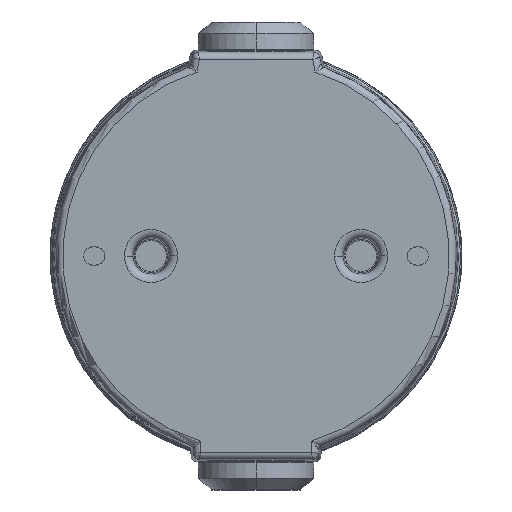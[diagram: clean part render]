
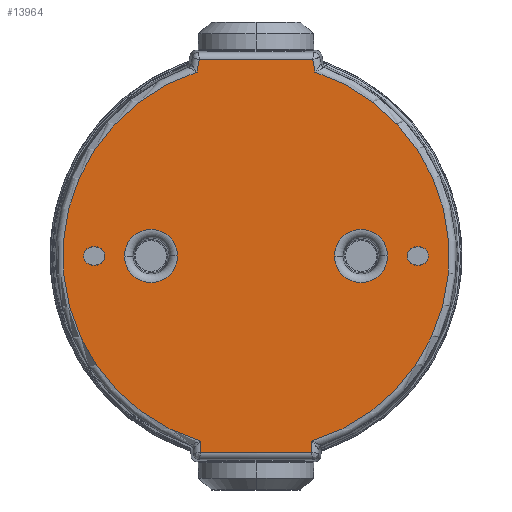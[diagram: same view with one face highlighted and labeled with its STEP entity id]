
A CAD part, front view. The second image highlights one B-rep face of the part: STEP entity #13964.
In plain terms, the highlighted planar face has unit normal (0, -1, 0).
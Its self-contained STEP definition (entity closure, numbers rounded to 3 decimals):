
#3261=CARTESIAN_POINT('',(-38.85,0.,0.));
#3262=DIRECTION('',(0.,1.,0.));
#3263=DIRECTION('',(0.,0.,-1.));
#3264=AXIS2_PLACEMENT_3D('',#3261,#3262,#3263);
#3269=DIRECTION('',(-1.,0.,0.));
#3270=VECTOR('',#3269,0.7);
#3271=CARTESIAN_POINT('',(-38.15,0.,-2.185));
#3272=LINE('',#3271,#3270);
#3276=CARTESIAN_POINT('',(-38.15,0.,0.));
#3277=DIRECTION('',(0.,1.,0.));
#3278=DIRECTION('',(0.,0.,1.));
#3279=AXIS2_PLACEMENT_3D('',#3276,#3277,#3278);
#3284=DIRECTION('',(1.,0.,0.));
#3285=VECTOR('',#3284,0.7);
#3286=CARTESIAN_POINT('',(-38.85,0.,2.185));
#3287=LINE('',#3286,#3285);
#3291=DIRECTION('',(-1.,0.,0.));
#3292=VECTOR('',#3291,0.7);
#3293=CARTESIAN_POINT('',(38.85,0.,-2.185));
#3294=LINE('',#3293,#3292);
#3298=CARTESIAN_POINT('',(38.85,0.,0.));
#3299=DIRECTION('',(0.,1.,0.));
#3300=DIRECTION('',(0.,0.,1.));
#3301=AXIS2_PLACEMENT_3D('',#3298,#3299,#3300);
#3306=DIRECTION('',(1.,0.,0.));
#3307=VECTOR('',#3306,0.7);
#3308=CARTESIAN_POINT('',(38.15,0.,2.185));
#3309=LINE('',#3308,#3307);
#3313=CARTESIAN_POINT('',(38.15,0.,0.));
#3314=DIRECTION('',(0.,1.,0.));
#3315=DIRECTION('',(0.,0.,-1.));
#3316=AXIS2_PLACEMENT_3D('',#3313,#3314,#3315);
#3321=CARTESIAN_POINT('',(0.,0.,0.));
#3322=DIRECTION('',(0.,1.,0.));
#3323=DIRECTION('',(0.305,0.,0.952));
#3324=AXIS2_PLACEMENT_3D('',#3321,#3322,#3323);
#3329=DIRECTION('',(0.,0.,-1.));
#3330=VECTOR('',#3329,2.746);
#3331=CARTESIAN_POINT('',(13.236,0.,
-44.04));
#3332=LINE('',#3331,#3330);
#3336=DIRECTION('',(-1.,0.,0.));
#3337=VECTOR('',#3336,26.472);
#3338=CARTESIAN_POINT('',(13.236,0.,
-46.786));
#3339=LINE('',#3338,#3337);
#3343=DIRECTION('',(0.,0.,-1.));
#3344=VECTOR('',#3343,2.746);
#3345=CARTESIAN_POINT('',(-13.236,0.,
-44.04));
#3346=LINE('',#3345,#3344);
#3350=CARTESIAN_POINT('',(0.,0.,0.));
#3351=DIRECTION('',(0.,1.,0.));
#3352=DIRECTION('',(-0.288,0.,-0.958));
#3353=AXIS2_PLACEMENT_3D('',#3350,#3351,#3352);
#3358=DIRECTION('',(-0.173,0.,-0.985));
#3359=VECTOR('',#3358,3.04);
#3360=CARTESIAN_POINT('',(-13.509,0.,
46.786));
#3361=LINE('',#3360,#3359);
#3365=DIRECTION('',(1.,0.,0.));
#3366=VECTOR('',#3365,27.018);
#3367=CARTESIAN_POINT('',(-13.509,0.,
46.786));
#3368=LINE('',#3367,#3366);
#3372=DIRECTION('',(0.173,0.,-0.985));
#3373=VECTOR('',#3372,3.04);
#3374=CARTESIAN_POINT('',(13.509,0.,
46.786));
#3375=LINE('',#3374,#3373);
#3379=CARTESIAN_POINT('',(-25.,0.,0.));
#3380=DIRECTION('',(0.,1.,0.));
#3381=DIRECTION('',(-1.,0.,0.));
#3382=AXIS2_PLACEMENT_3D('',#3379,#3380,#3381);
#3387=CARTESIAN_POINT('',(-25.,0.,0.));
#3388=DIRECTION('',(0.,1.,0.));
#3389=DIRECTION('',(1.,0.,0.));
#3390=AXIS2_PLACEMENT_3D('',#3387,#3388,#3389);
#3395=CARTESIAN_POINT('',(25.,0.,0.));
#3396=DIRECTION('',(0.,1.,0.));
#3397=DIRECTION('',(1.,0.,0.));
#3398=AXIS2_PLACEMENT_3D('',#3395,#3396,#3397);
#3403=CARTESIAN_POINT('',(25.,0.,0.));
#3404=DIRECTION('',(0.,1.,0.));
#3405=DIRECTION('',(-1.,0.,0.));
#3406=AXIS2_PLACEMENT_3D('',#3403,#3404,#3405);
#9635=CARTESIAN_POINT('',(-38.85,0.,-2.185));
#9636=CARTESIAN_POINT('',(-38.85,0.,2.185));
#9637=VERTEX_POINT('',#9635);
#9638=VERTEX_POINT('',#9636);
#9639=CARTESIAN_POINT('',(-38.15,0.,2.185));
#9640=VERTEX_POINT('',#9639);
#9641=CARTESIAN_POINT('',(-38.15,0.,-2.185));
#9642=VERTEX_POINT('',#9641);
#9643=CARTESIAN_POINT('',(38.85,0.,-2.185));
#9644=CARTESIAN_POINT('',(38.15,0.,-2.185));
#9645=VERTEX_POINT('',#9643);
#9646=VERTEX_POINT('',#9644);
#9647=CARTESIAN_POINT('',(38.15,0.,2.185));
#9648=VERTEX_POINT('',#9647);
#9649=CARTESIAN_POINT('',(38.85,0.,2.185));
#9650=VERTEX_POINT('',#9649);
#9651=CARTESIAN_POINT('',(-13.509,0.,
46.786));
#9652=CARTESIAN_POINT('',(13.509,0.,
46.786));
#9653=VERTEX_POINT('',#9651);
#9654=VERTEX_POINT('',#9652);
#9659=CARTESIAN_POINT('',(13.236,0.,
-46.786));
#9660=CARTESIAN_POINT('',(-13.236,0.,
-46.786));
#9661=VERTEX_POINT('',#9659);
#9662=VERTEX_POINT('',#9660);
#9671=CARTESIAN_POINT('',(14.036,0.,
43.791));
#9672=CARTESIAN_POINT('',(13.236,0.,
-44.04));
#9673=VERTEX_POINT('',#9671);
#9674=VERTEX_POINT('',#9672);
#9679=CARTESIAN_POINT('',(-13.236,0.,
-44.04));
#9680=CARTESIAN_POINT('',(-14.036,0.,
43.791));
#9681=VERTEX_POINT('',#9679);
#9682=VERTEX_POINT('',#9680);
#9771=CARTESIAN_POINT('',(-31.32,0.,0.));
#9772=CARTESIAN_POINT('',(-18.68,0.,0.));
#9773=VERTEX_POINT('',#9771);
#9774=VERTEX_POINT('',#9772);
#9779=CARTESIAN_POINT('',(31.32,0.,0.));
#9780=CARTESIAN_POINT('',(18.68,0.,0.));
#9781=VERTEX_POINT('',#9779);
#9782=VERTEX_POINT('',#9780);
#13910=CARTESIAN_POINT('',(0.,0.,0.));
#13911=DIRECTION('',(0.,1.,0.));
#13912=DIRECTION('',(1.,0.,0.));
#13913=AXIS2_PLACEMENT_3D('',#13910,#13911,#13912);
#13914=PLANE('',#13913);
#13915=ORIENTED_EDGE('',*,*,#13901,.T.);
#13917=ORIENTED_EDGE('',*,*,#13916,.T.);
#13919=ORIENTED_EDGE('',*,*,#13918,.T.);
#13921=ORIENTED_EDGE('',*,*,#13920,.F.);
#13923=ORIENTED_EDGE('',*,*,#13922,.T.);
#13925=ORIENTED_EDGE('',*,*,#13924,.F.);
#13927=ORIENTED_EDGE('',*,*,#13926,.T.);
#13929=ORIENTED_EDGE('',*,*,#13928,.T.);
#13930=EDGE_LOOP('',(#13915,#13917,#13919,#13921,#13923,#13925,#13927,#13929));
#13931=FACE_OUTER_BOUND('',#13930,.F.);
#13933=ORIENTED_EDGE('',*,*,#13932,.F.);
#13935=ORIENTED_EDGE('',*,*,#13934,.F.);
#13937=ORIENTED_EDGE('',*,*,#13936,.F.);
#13939=ORIENTED_EDGE('',*,*,#13938,.F.);
#13940=EDGE_LOOP('',(#13933,#13935,#13937,#13939));
#13941=FACE_BOUND('',#13940,.F.);
#13943=ORIENTED_EDGE('',*,*,#13942,.F.);
#13945=ORIENTED_EDGE('',*,*,#13944,.F.);
#13947=ORIENTED_EDGE('',*,*,#13946,.F.);
#13949=ORIENTED_EDGE('',*,*,#13948,.F.);
#13950=EDGE_LOOP('',(#13943,#13945,#13947,#13949));
#13951=FACE_BOUND('',#13950,.F.);
#13953=ORIENTED_EDGE('',*,*,#13952,.F.);
#13955=ORIENTED_EDGE('',*,*,#13954,.F.);
#13956=EDGE_LOOP('',(#13953,#13955));
#13957=FACE_BOUND('',#13956,.F.);
#13959=ORIENTED_EDGE('',*,*,#13958,.F.);
#13961=ORIENTED_EDGE('',*,*,#13960,.F.);
#13962=EDGE_LOOP('',(#13959,#13961));
#13963=FACE_BOUND('',#13962,.F.);
#3265=CIRCLE('',#3264,2.185);
#3280=CIRCLE('',#3279,2.185);
#3302=CIRCLE('',#3301,2.185);
#3317=CIRCLE('',#3316,2.185);
#3325=CIRCLE('',#3324,45.986);
#3354=CIRCLE('',#3353,45.986);
#3383=CIRCLE('',#3382,6.32);
#3391=CIRCLE('',#3390,6.32);
#3399=CIRCLE('',#3398,6.32);
#3407=CIRCLE('',#3406,6.32);
#13901=EDGE_CURVE('',#9673,#9674,#3325,.T.);
#13916=EDGE_CURVE('',#9674,#9661,#3332,.T.);
#13918=EDGE_CURVE('',#9661,#9662,#3339,.T.);
#13920=EDGE_CURVE('',#9681,#9662,#3346,.T.);
#13922=EDGE_CURVE('',#9681,#9682,#3354,.T.);
#13924=EDGE_CURVE('',#9653,#9682,#3361,.T.);
#13926=EDGE_CURVE('',#9653,#9654,#3368,.T.);
#13928=EDGE_CURVE('',#9654,#9673,#3375,.T.);
#13932=EDGE_CURVE('',#9645,#9646,#3294,.T.);
#13934=EDGE_CURVE('',#9650,#9645,#3302,.T.);
#13936=EDGE_CURVE('',#9648,#9650,#3309,.T.);
#13938=EDGE_CURVE('',#9646,#9648,#3317,.T.);
#13942=EDGE_CURVE('',#9637,#9638,#3265,.T.);
#13944=EDGE_CURVE('',#9642,#9637,#3272,.T.);
#13946=EDGE_CURVE('',#9640,#9642,#3280,.T.);
#13948=EDGE_CURVE('',#9638,#9640,#3287,.T.);
#13952=EDGE_CURVE('',#9773,#9774,#3383,.T.);
#13954=EDGE_CURVE('',#9774,#9773,#3391,.T.);
#13958=EDGE_CURVE('',#9781,#9782,#3399,.T.);
#13960=EDGE_CURVE('',#9782,#9781,#3407,.T.);
#13964=ADVANCED_FACE('',(#13931,#13941,#13951,#13957,#13963),#13914,.F.);
